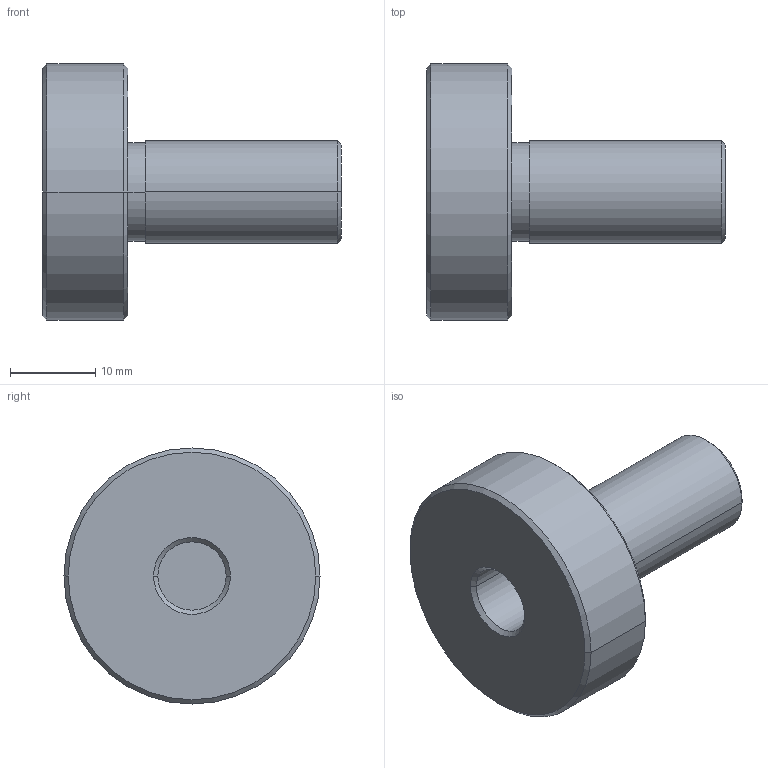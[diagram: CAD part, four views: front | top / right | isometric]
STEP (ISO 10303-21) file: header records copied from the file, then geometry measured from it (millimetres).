
FILE_DESCRIPTION(('CATIA V5 STEP Exchange'),'2;1');
FILE_NAME('D:\姚明阳\1、工装图纸\AGZ013 VDC阀压活塞治具\stp+pdf\GZ13.03_V3.stp','2024-10-10T05:42:32+00:00',('none'),('none'),'CATIA Version 5 Release 21 GA (IN-10)','CATIA V5 STEP AP203','none');
FILE_SCHEMA(('CONFIG_CONTROL_DESIGN'));
Length unit declared in the file: millimetre
Products named in the file (1): GZ003.05_V1
Bounding box: 35 x 30 x 30 mm (x, y, z)
Volume: 8991.9 mm3; surface area: 3667 mm2
Topology: 1 solids, 1 shells, 21 faces, 40 edges, 24 vertices
Faces by surface type: cone 8, cylinder 8, plane 5
Entity records: 532 total; most frequent: CARTESIAN_POINT 82, ORIENTED_EDGE 80, DIRECTION 74, AXIS2_PLACEMENT_3D 42, EDGE_CURVE 40, CIRCLE 24, EDGE_LOOP 24, VERTEX_POINT 24
